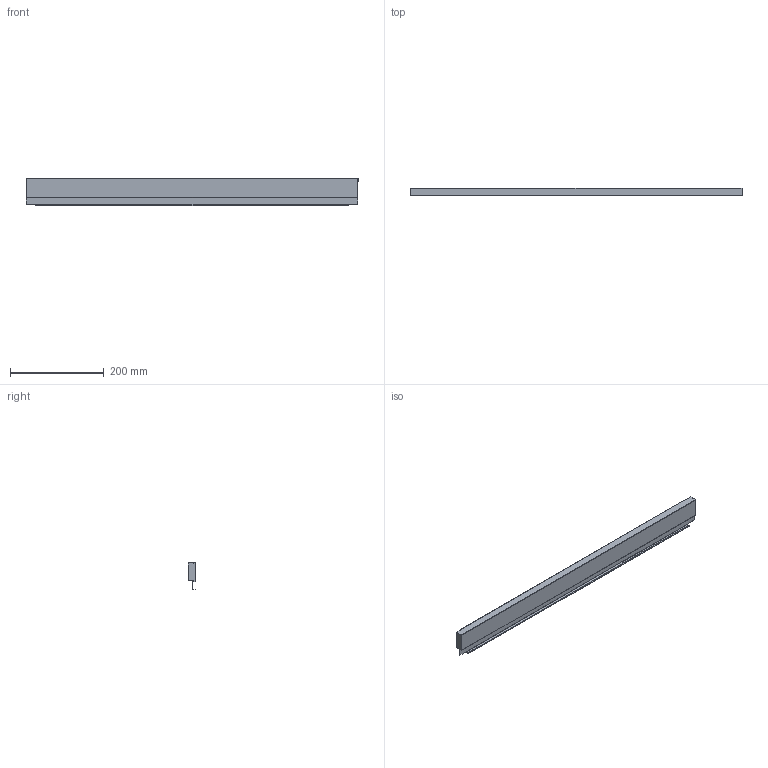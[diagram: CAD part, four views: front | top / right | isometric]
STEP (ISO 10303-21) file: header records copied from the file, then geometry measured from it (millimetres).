
FILE_DESCRIPTION (( 'STEP AP214' ), '1' );
FILE_NAME ('_STRW_H63_KAB_800.step', '2010-08-24T14:40:51', ( 'grass' ), ( '' ), 'SwSTEP 2.0', 'SolidWorks 2009', '' );
FILE_SCHEMA (( 'AUTOMOTIVE_DESIGN' ));
Length unit declared in the file: millimetre
Products named in the file (1): _STRW_H63_KAB_800
Bounding box: 710 x 17 x 58.14 mm (x, y, z)
Volume: 49186.4 mm3; surface area: 124312.5 mm2
Topology: 1 solids, 1 shells, 77 faces, 217 edges, 142 vertices
Faces by surface type: plane 54, cylinder 23
Entity records: 2507 total; most frequent: CARTESIAN_POINT 437, ORIENTED_EDGE 434, DIRECTION 419, EDGE_CURVE 217, LINE 171, VECTOR 171, VERTEX_POINT 142, AXIS2_PLACEMENT_3D 124
